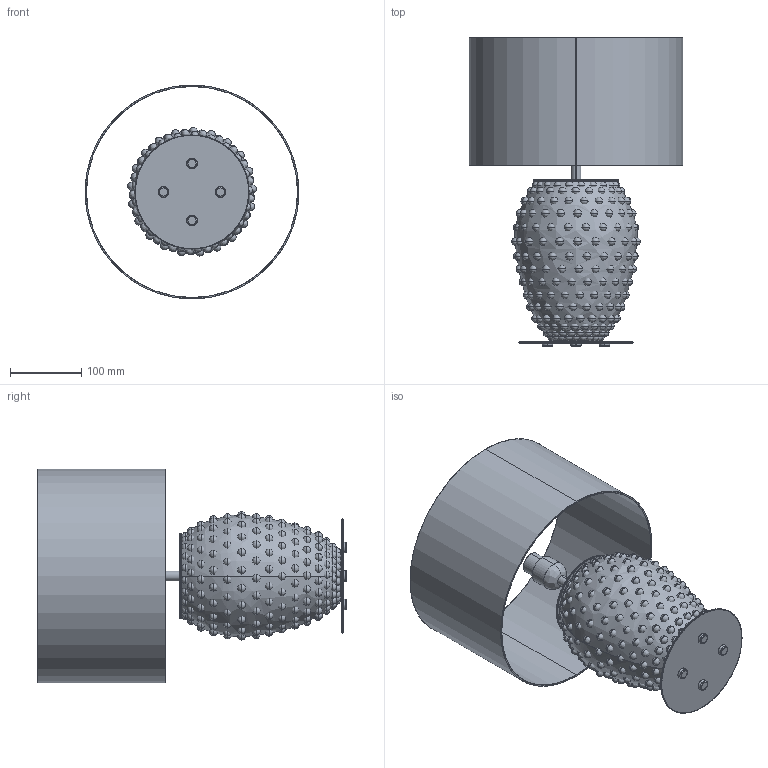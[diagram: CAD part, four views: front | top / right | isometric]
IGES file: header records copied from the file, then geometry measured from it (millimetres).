
Start section: SolidWorks IGES file using analytic representation for surfaces
Global section: file name: D:\3d novedades 2024\3D SS24\NAC135_1_B_CACTUS.IGS; native system: SolidWorks 2018; preprocessor: SolidWorks 2018; author: Agus; date: 240205.124929; units: millimetre
Bounding box: 300 x 434 x 300 mm (x, y, z)
Surface area: 752906.5 mm2 (no closed solid volume)
Topology: 0 solids, 0 shells, 698 faces, 4088 edges, 3458 vertices
Faces by surface type: revolution 654, bspline 44
